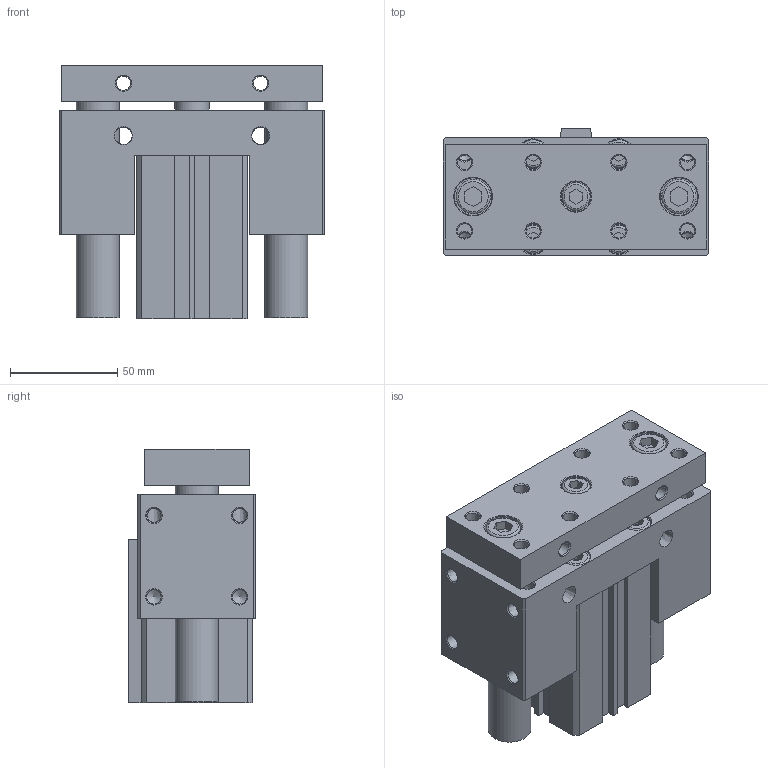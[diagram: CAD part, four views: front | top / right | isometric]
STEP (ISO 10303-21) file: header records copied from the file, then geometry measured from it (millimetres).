
FILE_DESCRIPTION((''),'2;1');
FILE_NAME('I:\3D電子目錄\氣缸\JCB\JCB\JCB40-S\JCB40x40-S.stp','2007-08-23T20:14:45',('Administrator'),(''),'Autodesk Inventor 11','Autodesk Inventor 11','');
FILE_SCHEMA(('AUTOMOTIVE_DESIGN { 1 0 10303 214 1 1 1 1 }'));
Length unit declared in the file: millimetre
Products named in the file (1): JCB40
Bounding box: 124 x 59.5 x 118.5 mm (x, y, z)
Volume: 557754.6 mm3; surface area: 122554.3 mm2
Topology: 3 solids, 3 shells, 303 faces, 731 edges, 473 vertices
Faces by surface type: plane 163, cylinder 52, cone 47, bspline 33, torus 8
Full cylindrical faces by diameter (mm): 2.2 x2, 6.647 x4, 6.8 x4, 10 x8, 13 x5, 14 x5, 16 x3, 17 x1, 17.5 x2, 20 x2, 23 x2, 28 x1, 29 x1, 42 x4, 44.5 x2
Entity records: 8528 total; most frequent: CARTESIAN_POINT 2090, DIRECTION 1302, ORIENTED_EDGE 1114, EDGE_CURVE 557, EDGE_LOOP 522, AXIS2_PLACEMENT_3D 480, VERTEX_POINT 435, VECTOR 342
